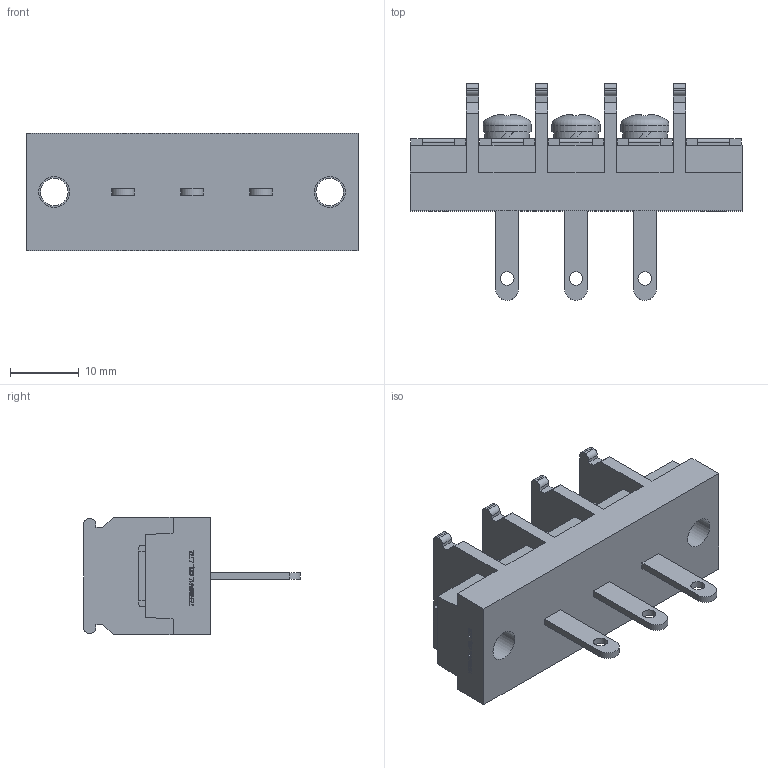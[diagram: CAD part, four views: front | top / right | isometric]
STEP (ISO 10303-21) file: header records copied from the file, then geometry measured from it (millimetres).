
FILE_DESCRIPTION(/* description */ ('Alibre Inc.'),/* implementation_level */ '2;1');
FILE_NAME(/* name */ 'export0',/* time_stamp */ '2015-10-14T18:58:44+09:00',/* author */ (''),/* organization */ (''),/* preprocessor_version */ 'ST-DEVELOPER v14',/* originating_system */ 'Alibre',/* authorisation */ '');
FILE_SCHEMA (('CONFIG_CONTROL_DESIGN'));
Length unit declared in the file: centimetre
Products named in the file (1): ID_1
Bounding box: 48.2 x 31.5 x 17 mm (x, y, z)
Volume: 8472.6 mm3; surface area: 5388.6 mm2
Topology: 1 solids, 17 shells, 648 faces, 1737 edges, 1156 vertices
Faces by surface type: plane 478, bspline 104, cylinder 45, cone 12, torus 6, sphere 3
Full cylindrical faces by diameter (mm): 2 x3, 4 x5, 4.5 x2, 6.5 x3, 7 x3
Entity records: 19584 total; most frequent: CARTESIAN_POINT 4517, ORIENTED_EDGE 3412, DIRECTION 2250, EDGE_CURVE 1706, VECTOR 1296, LINE 1296, VERTEX_POINT 1144, EDGE_LOOP 724
